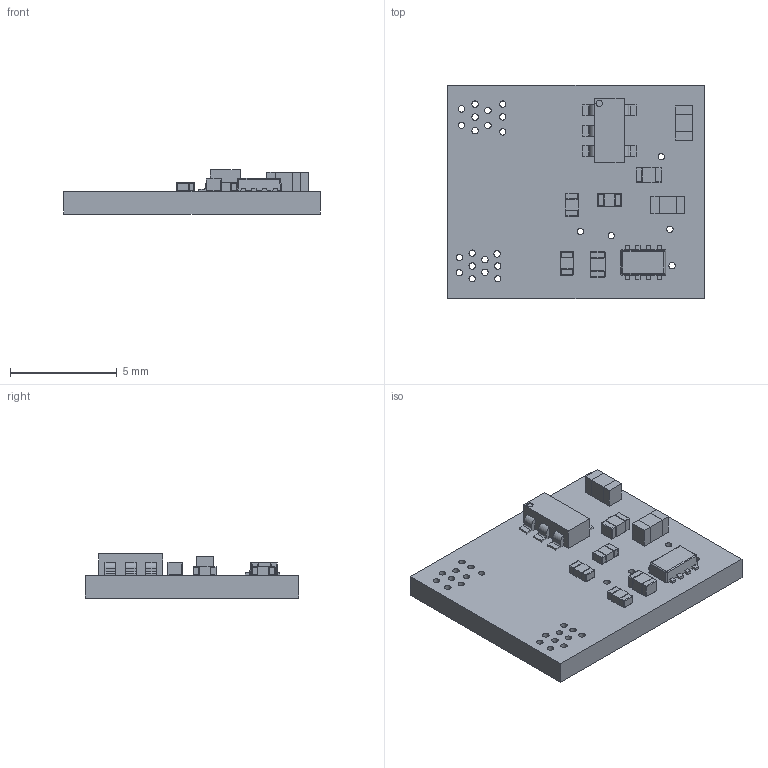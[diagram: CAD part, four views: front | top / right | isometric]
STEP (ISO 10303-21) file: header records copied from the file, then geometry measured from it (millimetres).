
FILE_DESCRIPTION(/* description */ (''),/* implementation_level */ '2;1');
FILE_NAME(/* name */ 'async-diff-board-tx-p1b-rev v3.step',/* time_stamp */ '2024-02-04T03:47:23-06:00',/* author */ (''),/* organization */ (''),/* preprocessor_version */ 'ST-DEVELOPER v20',/* originating_system */ 'Autodesk Translation Framework v12.20.1.177',/* authorisation */ '');
FILE_SCHEMA (('AUTOMOTIVE_DESIGN { 1 0 10303 214 3 1 1 }'));
Length unit declared in the file: millimetre
Products named in the file (10): async-diff-board-tx-p1b-rev; Board; Packages; SOT-23-5; C0402; C0603; R0402; DRL0008A-MFG; FRAME-DRL0008A; BODY-SOT
Assembly tree (13 placements, depth 4):
  async-diff-board-tx-p1b-rev
    Board
    Packages
      SOT-23-5
      C0402  x2
      C0603  x2
      R0402  x3
      DRL0008A-MFG
        FRAME-DRL0008A
        BODY-SOT
Bounding box: 12 x 10 x 2.07 mm (x, y, z)
Volume: 136.5 mm3; surface area: 374.7 mm2
Topology: 18 solids, 18 shells, 502 faces, 1098 edges, 648 vertices
Faces by surface type: plane 242, cylinder 176, sphere 84
Full cylindrical faces by diameter (mm): 0.3 x28
Entity records: 9641 total; most frequent: DIRECTION 1634, CARTESIAN_POINT 1538, ORIENTED_EDGE 1476, EDGE_CURVE 738, AXIS2_PLACEMENT_3D 552, LINE 530, VECTOR 530, VERTEX_POINT 456
